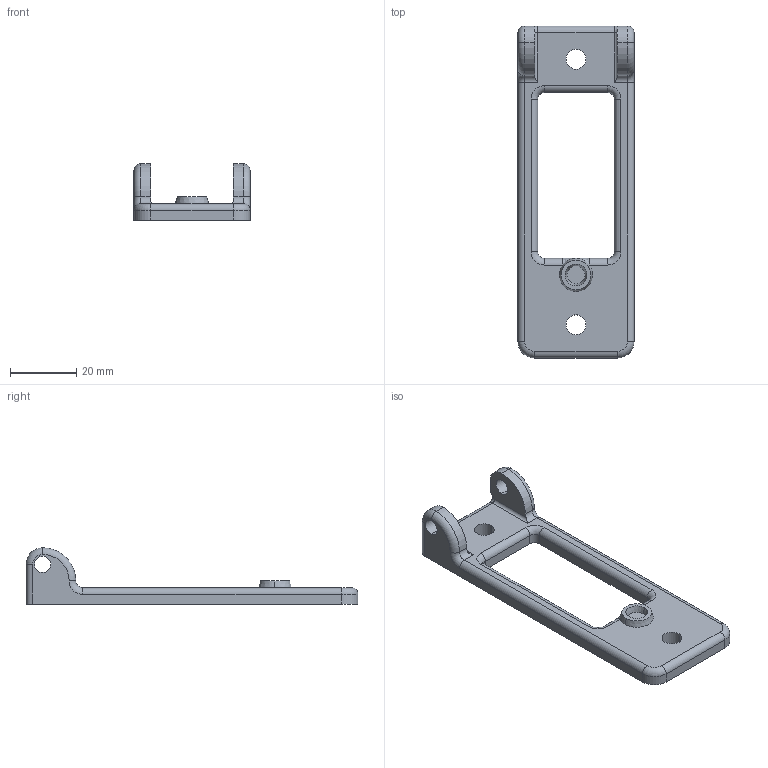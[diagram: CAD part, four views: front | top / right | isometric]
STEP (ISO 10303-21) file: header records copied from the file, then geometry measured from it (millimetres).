
FILE_DESCRIPTION (( 'STEP AP203' ), '1' );
FILE_NAME ('BELT IDLER MOUNT Y.STEP', '2012-08-20T19:31:46', ( '' ), ( '' ), 'SwSTEP 2.0', 'SolidWorks 2012', '' );
FILE_SCHEMA (( 'CONFIG_CONTROL_DESIGN' ));
Length unit declared in the file: millimetre
Products named in the file (1): BELT IDLER MOUNT Y
Bounding box: 35 x 100 x 17 mm (x, y, z)
Volume: 12494.1 mm3; surface area: 7346.4 mm2
Topology: 1 solids, 1 shells, 67 faces, 169 edges, 103 vertices
Faces by surface type: cylinder 33, plane 14, torus 14, cone 4, bspline 2
Entity records: 2207 total; most frequent: CARTESIAN_POINT 454, DIRECTION 386, ORIENTED_EDGE 334, EDGE_CURVE 167, AXIS2_PLACEMENT_3D 159, VERTEX_POINT 103, CIRCLE 93, EDGE_LOOP 78
